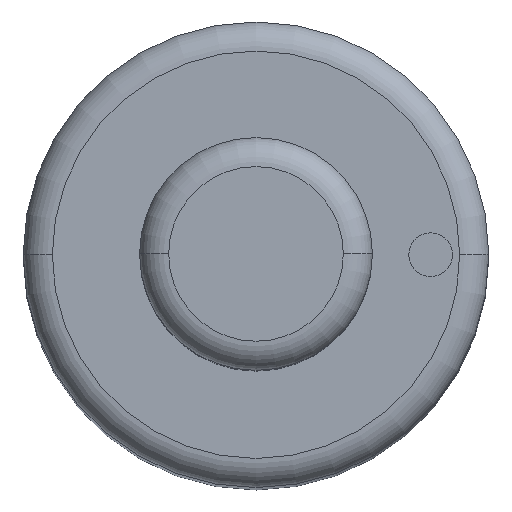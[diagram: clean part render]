
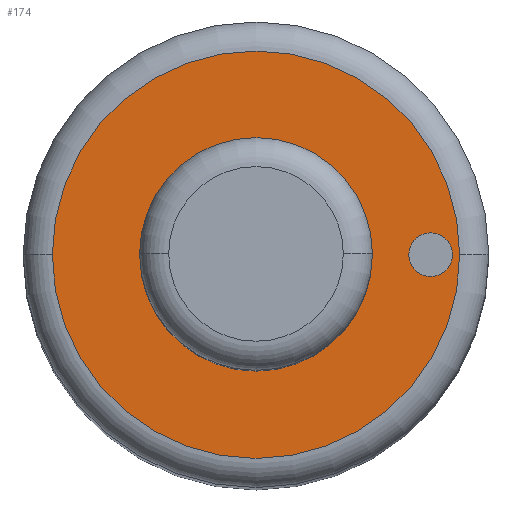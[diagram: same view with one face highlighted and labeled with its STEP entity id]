
A CAD part, top view. The second image highlights one B-rep face of the part: STEP entity #174.
In plain terms, the highlighted planar face has unit normal (0, 0, 1).
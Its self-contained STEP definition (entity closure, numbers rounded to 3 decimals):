
#99=FACE_BOUND('',#225,.T.);
#100=FACE_BOUND('',#226,.T.);
#101=FACE_BOUND('',#227,.T.);
#174=ADVANCED_FACE('',(#99,#100,#101),#180,.T.);
#180=PLANE('',#475);
#225=EDGE_LOOP('',(#307,#308));
#226=EDGE_LOOP('',(#309,#310));
#227=EDGE_LOOP('',(#311,#312));
#307=ORIENTED_EDGE('',*,*,#367,.F.);
#308=ORIENTED_EDGE('',*,*,#368,.F.);
#309=ORIENTED_EDGE('',*,*,#390,.F.);
#310=ORIENTED_EDGE('',*,*,#391,.F.);
#311=ORIENTED_EDGE('',*,*,#363,.T.);
#312=ORIENTED_EDGE('',*,*,#361,.T.);
#329=VERTEX_POINT('',#630);
#330=VERTEX_POINT('',#632);
#331=VERTEX_POINT('',#638);
#334=VERTEX_POINT('',#643);
#346=VERTEX_POINT('',#692);
#347=VERTEX_POINT('',#693);
#361=EDGE_CURVE('',#330,#329,#404,.T.);
#363=EDGE_CURVE('',#329,#330,#405,.T.);
#367=EDGE_CURVE('',#334,#331,#409,.T.);
#368=EDGE_CURVE('',#331,#334,#410,.T.);
#390=EDGE_CURVE('',#346,#347,#422,.T.);
#391=EDGE_CURVE('',#347,#346,#423,.T.);
#404=CIRCLE('',#440,4.);
#405=CIRCLE('',#442,4.);
#409=CIRCLE('',#447,7.);
#410=CIRCLE('',#449,7.);
#422=CIRCLE('',#473,0.75);
#423=CIRCLE('',#474,0.75);
#440=AXIS2_PLACEMENT_3D('',#631,#512,#513);
#442=AXIS2_PLACEMENT_3D('',#635,#517,#518);
#447=AXIS2_PLACEMENT_3D('',#644,#527,#528);
#449=AXIS2_PLACEMENT_3D('',#646,#531,#532);
#473=AXIS2_PLACEMENT_3D('',#691,#589,#590);
#474=AXIS2_PLACEMENT_3D('',#694,#591,#592);
#475=AXIS2_PLACEMENT_3D('',#695,#593,#594);
#512=DIRECTION('',(0.,0.,-1.));
#513=DIRECTION('',(0.,1.,0.));
#517=DIRECTION('',(0.,0.,-1.));
#518=DIRECTION('',(0.,-1.,0.));
#527=DIRECTION('',(0.,0.,-1.));
#528=DIRECTION('',(0.,1.,0.));
#531=DIRECTION('',(0.,0.,-1.));
#532=DIRECTION('',(0.,-1.,0.));
#589=DIRECTION('',(0.,0.,1.));
#590=DIRECTION('',(0.,1.,0.));
#591=DIRECTION('',(0.,0.,1.));
#592=DIRECTION('',(0.,-1.,0.));
#593=DIRECTION('',(0.,0.,1.));
#594=DIRECTION('',(0.,-1.,0.));
#630=CARTESIAN_POINT('',(-4.,0.,49.));
#631=CARTESIAN_POINT('',(0.,0.,49.));
#632=CARTESIAN_POINT('',(4.,0.,49.));
#635=CARTESIAN_POINT('',(0.,0.,49.));
#638=CARTESIAN_POINT('',(-7.,0.,49.));
#643=CARTESIAN_POINT('',(7.,0.,49.));
#644=CARTESIAN_POINT('',(0.,0.,49.));
#646=CARTESIAN_POINT('',(0.,0.,49.));
#691=CARTESIAN_POINT('',(6.,0.,49.));
#692=CARTESIAN_POINT('',(5.25,0.,49.));
#693=CARTESIAN_POINT('',(6.75,0.,49.));
#694=CARTESIAN_POINT('',(6.,0.,49.));
#695=CARTESIAN_POINT('',(0.,0.,49.));
